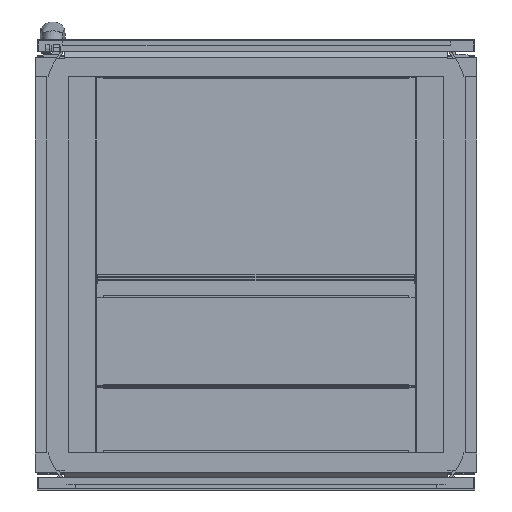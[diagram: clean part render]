
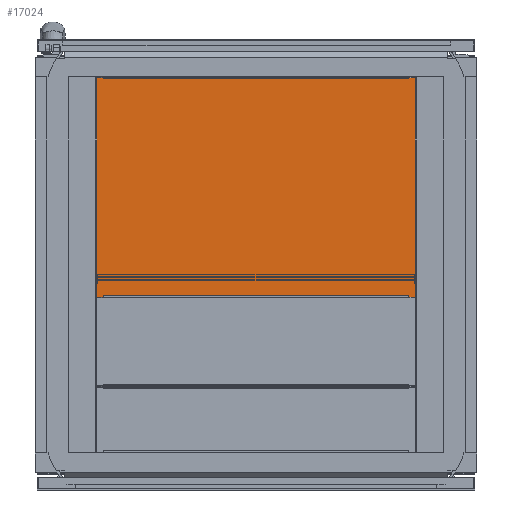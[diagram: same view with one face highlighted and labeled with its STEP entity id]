
A CAD part, front view. The second image highlights one B-rep face of the part: STEP entity #17024.
In plain terms, the highlighted planar face has unit normal (0, -1, 0).
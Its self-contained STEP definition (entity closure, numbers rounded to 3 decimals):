
#4753=ORIENTED_EDGE('',*,*,#7327,.T.);
#4754=ORIENTED_EDGE('',*,*,#7278,.T.);
#4755=ORIENTED_EDGE('',*,*,#7319,.F.);
#4756=ORIENTED_EDGE('',*,*,#7328,.F.);
#4757=ORIENTED_EDGE('',*,*,#7329,.F.);
#4758=ORIENTED_EDGE('',*,*,#7330,.F.);
#4759=ORIENTED_EDGE('',*,*,#7331,.F.);
#4760=ORIENTED_EDGE('',*,*,#7332,.F.);
#4761=ORIENTED_EDGE('',*,*,#7333,.F.);
#4762=ORIENTED_EDGE('',*,*,#7274,.T.);
#4763=ORIENTED_EDGE('',*,*,#7334,.F.);
#4764=ORIENTED_EDGE('',*,*,#7285,.F.);
#4765=ORIENTED_EDGE('',*,*,#7335,.F.);
#4766=ORIENTED_EDGE('',*,*,#7336,.F.);
#4767=ORIENTED_EDGE('',*,*,#7337,.F.);
#4768=ORIENTED_EDGE('',*,*,#7338,.F.);
#4769=ORIENTED_EDGE('',*,*,#7339,.F.);
#4770=ORIENTED_EDGE('',*,*,#7340,.F.);
#4771=ORIENTED_EDGE('',*,*,#7315,.F.);
#4772=ORIENTED_EDGE('',*,*,#7289,.F.);
#7274=EDGE_CURVE('',#8943,#8944,#10917,.T.);
#7278=EDGE_CURVE('',#8947,#8948,#10921,.T.);
#7285=EDGE_CURVE('',#8954,#8951,#10928,.T.);
#7289=EDGE_CURVE('',#8958,#8955,#10932,.T.);
#7315=EDGE_CURVE('',#8955,#8983,#10958,.T.);
#7319=EDGE_CURVE('',#8986,#8948,#10962,.T.);
#7327=EDGE_CURVE('',#8958,#8947,#10970,.T.);
#7328=EDGE_CURVE('',#8987,#8986,#10971,.T.);
#7329=EDGE_CURVE('',#8988,#8987,#10972,.T.);
#7330=EDGE_CURVE('',#8989,#8988,#10973,.T.);
#7331=EDGE_CURVE('',#8990,#8989,#10974,.T.);
#7332=EDGE_CURVE('',#8991,#8990,#10975,.T.);
#7333=EDGE_CURVE('',#8943,#8991,#10976,.T.);
#7334=EDGE_CURVE('',#8951,#8944,#10977,.T.);
#7335=EDGE_CURVE('',#8992,#8954,#10978,.T.);
#7336=EDGE_CURVE('',#8993,#8992,#10979,.T.);
#7337=EDGE_CURVE('',#8994,#8993,#10980,.T.);
#7338=EDGE_CURVE('',#8995,#8994,#10981,.T.);
#7339=EDGE_CURVE('',#8996,#8995,#10982,.T.);
#7340=EDGE_CURVE('',#8983,#8996,#10983,.T.);
#8943=VERTEX_POINT('',#27295);
#8944=VERTEX_POINT('',#27296);
#8947=VERTEX_POINT('',#27304);
#8948=VERTEX_POINT('',#27305);
#8951=VERTEX_POINT('',#27313);
#8954=VERTEX_POINT('',#27318);
#8955=VERTEX_POINT('',#27322);
#8958=VERTEX_POINT('',#27327);
#8983=VERTEX_POINT('',#27384);
#8986=VERTEX_POINT('',#27390);
#8987=VERTEX_POINT('',#27406);
#8988=VERTEX_POINT('',#27408);
#8989=VERTEX_POINT('',#27410);
#8990=VERTEX_POINT('',#27412);
#8991=VERTEX_POINT('',#27414);
#8992=VERTEX_POINT('',#27418);
#8993=VERTEX_POINT('',#27420);
#8994=VERTEX_POINT('',#27422);
#8995=VERTEX_POINT('',#27424);
#8996=VERTEX_POINT('',#27426);
#10917=LINE('',#27294,#12979);
#10921=LINE('',#27303,#12983);
#10928=LINE('',#27319,#12990);
#10932=LINE('',#27328,#12994);
#10958=LINE('',#27383,#13020);
#10962=LINE('',#27391,#13024);
#10970=LINE('',#27403,#13032);
#10971=LINE('',#27405,#13033);
#10972=LINE('',#27407,#13034);
#10973=LINE('',#27409,#13035);
#10974=LINE('',#27411,#13036);
#10975=LINE('',#27413,#13037);
#10976=LINE('',#27415,#13038);
#10977=LINE('',#27416,#13039);
#10978=LINE('',#27417,#13040);
#10979=LINE('',#27419,#13041);
#10980=LINE('',#27421,#13042);
#10981=LINE('',#27423,#13043);
#10982=LINE('',#27425,#13044);
#10983=LINE('',#27427,#13045);
#12979=VECTOR('',#22400,1000.);
#12983=VECTOR('',#22406,1000.);
#12990=VECTOR('',#22415,1000.);
#12994=VECTOR('',#22421,1000.);
#13020=VECTOR('',#22457,1000.);
#13024=VECTOR('',#22461,1000.);
#13032=VECTOR('',#22477,1000.);
#13033=VECTOR('',#22480,1000.);
#13034=VECTOR('',#22481,1000.);
#13035=VECTOR('',#22482,1000.);
#13036=VECTOR('',#22483,1000.);
#13037=VECTOR('',#22484,1000.);
#13038=VECTOR('',#22485,1000.);
#13039=VECTOR('',#22486,1000.);
#13040=VECTOR('',#22487,1000.);
#13041=VECTOR('',#22488,1000.);
#13042=VECTOR('',#22489,1000.);
#13043=VECTOR('',#22490,1000.);
#13044=VECTOR('',#22491,1000.);
#13045=VECTOR('',#22492,1000.);
#14258=EDGE_LOOP('',(#4753,#4754,#4755,#4756,#4757,#4758,#4759,#4760,#4761,
#4762,#4763,#4764,#4765,#4766,#4767,#4768,#4769,#4770,#4771,#4772));
#15354=FACE_BOUND('',#14258,.T.);
#16121=PLANE('',#18348);
#17024=ADVANCED_FACE('',(#15354),#16121,.F.);
#18348=AXIS2_PLACEMENT_3D('',#27404,#22478,#22479);
#22400=DIRECTION('',(0.,0.,1.));
#22406=DIRECTION('',(0.,0.,1.));
#22415=DIRECTION('',(0.,0.,1.));
#22421=DIRECTION('',(0.,0.,1.));
#22457=DIRECTION('',(1.,0.,0.));
#22461=DIRECTION('',(1.,0.,0.));
#22477=DIRECTION('',(-1.,0.,0.));
#22478=DIRECTION('',(0.,1.,0.));
#22479=DIRECTION('',(0.,0.,1.));
#22480=DIRECTION('',(0.,0.,1.));
#22481=DIRECTION('',(0.707,0.,0.707));
#22482=DIRECTION('',(0.,0.,1.));
#22483=DIRECTION('',(-0.707,0.,0.707));
#22484=DIRECTION('',(0.,0.,1.));
#22485=DIRECTION('',(-1.,0.,0.));
#22486=DIRECTION('',(-1.,0.,0.));
#22487=DIRECTION('',(-1.,0.,0.));
#22488=DIRECTION('',(0.,0.,-1.));
#22489=DIRECTION('',(-0.707,0.,-0.707));
#22490=DIRECTION('',(0.,0.,-1.));
#22491=DIRECTION('',(0.707,0.,-0.707));
#22492=DIRECTION('',(0.,0.,-1.));
#27294=CARTESIAN_POINT('',(-214.5,-1.,0.));
#27295=CARTESIAN_POINT('',(-214.5,-1.,-300.));
#27296=CARTESIAN_POINT('',(-214.5,-1.,-299.));
#27303=CARTESIAN_POINT('',(-214.5,-1.,0.));
#27304=CARTESIAN_POINT('',(-214.5,-1.,-1.));
#27305=CARTESIAN_POINT('',(-214.5,-1.,0.));
#27313=CARTESIAN_POINT('',(214.5,-1.,-299.));
#27318=CARTESIAN_POINT('',(214.5,-1.,-300.));
#27319=CARTESIAN_POINT('',(214.5,-1.,0.));
#27322=CARTESIAN_POINT('',(214.5,-1.,0.));
#27327=CARTESIAN_POINT('',(214.5,-1.,-1.));
#27328=CARTESIAN_POINT('',(214.5,-1.,0.));
#27383=CARTESIAN_POINT('',(-222.5,-1.,0.));
#27384=CARTESIAN_POINT('',(222.5,-1.,0.));
#27390=CARTESIAN_POINT('',(-222.5,-1.,0.));
#27391=CARTESIAN_POINT('',(-222.5,-1.,0.));
#27403=CARTESIAN_POINT('',(207.5,-1.,-1.));
#27404=CARTESIAN_POINT('',(207.5,-1.,-1.));
#27405=CARTESIAN_POINT('',(-222.5,-1.,-26.8));
#27406=CARTESIAN_POINT('',(-222.5,-1.,-26.8));
#27407=CARTESIAN_POINT('',(-233.8,-1.,-38.1));
#27408=CARTESIAN_POINT('',(-233.8,-1.,-38.1));
#27409=CARTESIAN_POINT('',(-233.8,-1.,-261.9));
#27410=CARTESIAN_POINT('',(-233.8,-1.,-261.9));
#27411=CARTESIAN_POINT('',(-222.5,-1.,-273.2));
#27412=CARTESIAN_POINT('',(-222.5,-1.,-273.2));
#27413=CARTESIAN_POINT('',(-222.5,-1.,-300.));
#27414=CARTESIAN_POINT('',(-222.5,-1.,-300.));
#27415=CARTESIAN_POINT('',(222.5,-1.,-300.));
#27416=CARTESIAN_POINT('',(207.5,-1.,-299.));
#27417=CARTESIAN_POINT('',(222.5,-1.,-300.));
#27418=CARTESIAN_POINT('',(222.5,-1.,-300.));
#27419=CARTESIAN_POINT('',(222.5,-1.,-273.2));
#27420=CARTESIAN_POINT('',(222.5,-1.,-273.2));
#27421=CARTESIAN_POINT('',(233.8,-1.,-261.9));
#27422=CARTESIAN_POINT('',(233.8,-1.,-261.9));
#27423=CARTESIAN_POINT('',(233.8,-1.,-38.1));
#27424=CARTESIAN_POINT('',(233.8,-1.,-38.1));
#27425=CARTESIAN_POINT('',(222.5,-1.,-26.8));
#27426=CARTESIAN_POINT('',(222.5,-1.,-26.8));
#27427=CARTESIAN_POINT('',(222.5,-1.,0.));
